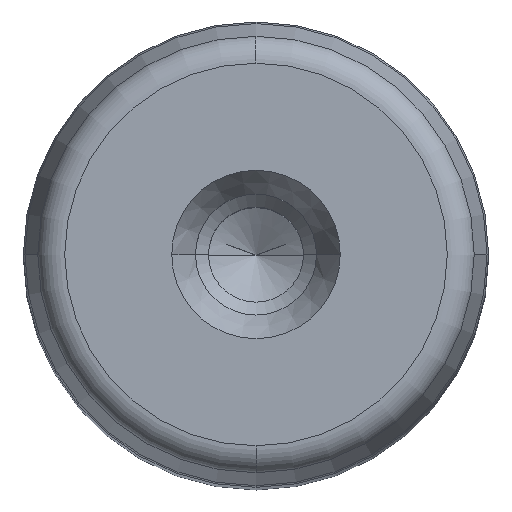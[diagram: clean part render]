
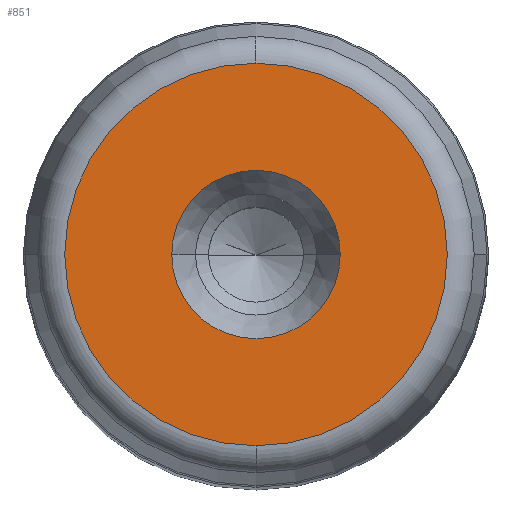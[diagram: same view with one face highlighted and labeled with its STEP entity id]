
A CAD part, top view. The second image highlights one B-rep face of the part: STEP entity #851.
In plain terms, the highlighted planar face has unit normal (0, 0, 1) as drawn and (0, 1, 0) by its records, which use the part's own axes.
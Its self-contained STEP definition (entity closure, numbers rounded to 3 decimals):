
#281=CARTESIAN_POINT('',(9.05,180.0,0.0));
#282=VERTEX_POINT('',#281);
#289=CARTESIAN_POINT('',(-9.05,180.0,0.));
#290=VERTEX_POINT('',#289);
#291=CARTESIAN_POINT('',(0.0,180.0,0.0));
#292=DIRECTION('',(0.0,1.0,0.0));
#293=DIRECTION('',(1.0,0.0,0.0));
#294=AXIS2_PLACEMENT_3D('',#291,#292,#293);
#295=CIRCLE('',#294,9.05);
#296=EDGE_CURVE('',#282,#290,#295,.T.);
#313=CARTESIAN_POINT('',(0.0,180.,20.554));
#314=VERTEX_POINT('',#313);
#324=CARTESIAN_POINT('',(0.,180.,-20.554));
#325=VERTEX_POINT('',#324);
#326=CARTESIAN_POINT('',(0.0,180.,0.0));
#327=DIRECTION('',(0.0,1.0,0.0));
#328=DIRECTION('',(1.0,0.0,0.0));
#329=AXIS2_PLACEMENT_3D('',#326,#327,#328);
#330=CIRCLE('',#329,20.554);
#331=EDGE_CURVE('',#325,#314,#330,.T.);
#812=CARTESIAN_POINT('',(20.554,180.,0.0));
#813=VERTEX_POINT('',#812);
#814=CARTESIAN_POINT('',(0.0,180.,0.0));
#815=DIRECTION('',(0.0,1.0,0.0));
#816=DIRECTION('',(1.0,0.0,0.0));
#817=AXIS2_PLACEMENT_3D('',#814,#815,#816);
#818=CIRCLE('',#817,20.554);
#819=EDGE_CURVE('',#813,#325,#818,.T.);
#821=CARTESIAN_POINT('',(0.0,180.,0.0));
#822=DIRECTION('',(0.0,1.0,0.0));
#823=DIRECTION('',(1.0,0.0,0.0));
#824=AXIS2_PLACEMENT_3D('',#821,#822,#823);
#825=CIRCLE('',#824,20.554);
#826=EDGE_CURVE('',#314,#813,#825,.T.);
#831=CARTESIAN_POINT('',(-22.61,180.0,-22.61));
#832=DIRECTION('',(0.0,1.0,0.0));
#833=DIRECTION('',(0.0,0.0,1.0));
#834=AXIS2_PLACEMENT_3D('',#831,#832,#833);
#835=PLANE('',#834);
#836=ORIENTED_EDGE('',*,*,#819,.T.);
#837=ORIENTED_EDGE('',*,*,#331,.T.);
#838=ORIENTED_EDGE('',*,*,#826,.T.);
#839=EDGE_LOOP('',(#836,#837,#838));
#840=FACE_OUTER_BOUND('',#839,.T.);
#841=ORIENTED_EDGE('',*,*,#296,.F.);
#842=CARTESIAN_POINT('',(0.0,180.0,0.0));
#843=DIRECTION('',(0.0,1.0,0.0));
#844=DIRECTION('',(1.0,0.0,0.0));
#845=AXIS2_PLACEMENT_3D('',#842,#843,#844);
#846=CIRCLE('',#845,9.05);
#847=EDGE_CURVE('',#290,#282,#846,.T.);
#848=ORIENTED_EDGE('',*,*,#847,.F.);
#849=EDGE_LOOP('',(#841,#848));
#850=FACE_BOUND('',#849,.T.);
#851=ADVANCED_FACE('',(#840,#850),#835,.T.);
